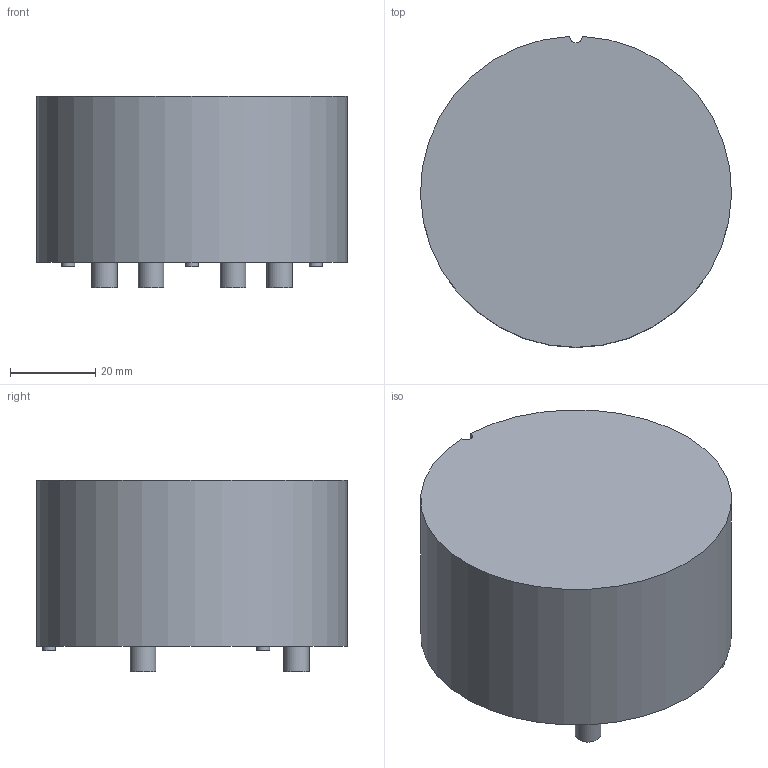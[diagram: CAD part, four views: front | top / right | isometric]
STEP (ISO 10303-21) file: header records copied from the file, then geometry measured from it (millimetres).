
FILE_DESCRIPTION(/* description */ (''),/* implementation_level */ '2;1');
FILE_NAME(/* name */ 'F:\2016年工作\2016年产品图纸\VAC\X2\4EA754C1\X0\3D模型\产品3D模型\6123-X285\6123-X285 3D model.stp',/* time_stamp */ '2016-06-17T11:26:40+08:00',/* author */ ('CN000560'),/* organization */ (''),/* preprocessor_version */ 'ST-DEVELOPER v16.1',/* originating_system */ 'Autodesk Inventor 2016',/* authorisation */ '');
FILE_SCHEMA (('AUTOMOTIVE_DESIGN { 1 0 10303 214 3 1 1 }'));
Length unit declared in the file: millimetre
Products named in the file (1): 6123-X285 3D model
Bounding box: 72.98 x 72.97 x 45 mm (x, y, z)
Volume: 163793.2 mm3; surface area: 17852.9 mm2
Topology: 1 solids, 1 shells, 18 faces, 29 edges, 19 vertices
Faces by surface type: cylinder 9, plane 9
Full cylindrical faces by diameter (mm): 3 x3, 6 x4
Entity records: 404 total; most frequent: DIRECTION 78, CARTESIAN_POINT 58, ORIENTED_EDGE 42, AXIS2_PLACEMENT_3D 38, EDGE_LOOP 31, EDGE_CURVE 21, CIRCLE 19, FACE_OUTER_BOUND 18
